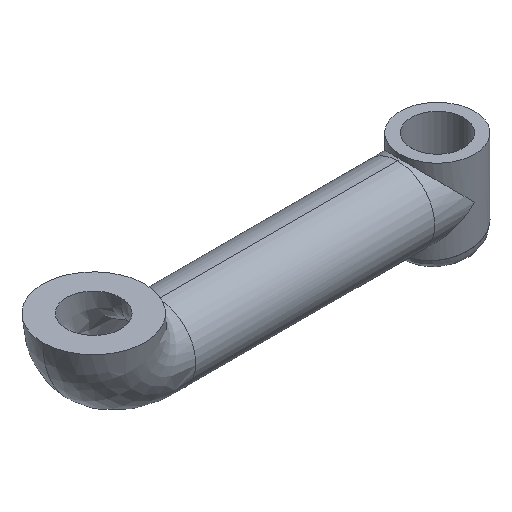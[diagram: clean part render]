
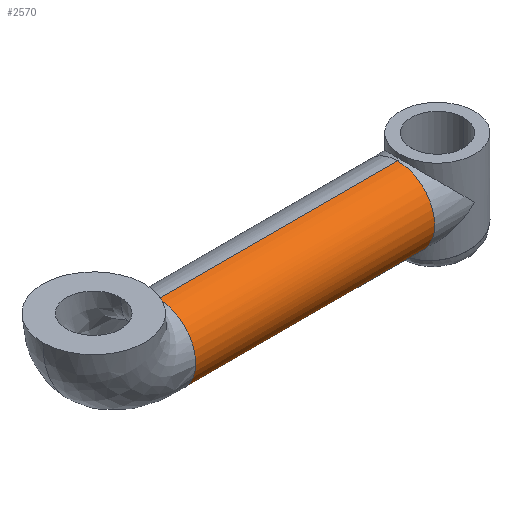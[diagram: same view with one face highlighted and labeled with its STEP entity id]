
A CAD part, isometric view. The second image highlights one B-rep face of the part: STEP entity #2570.
In plain terms, the highlighted cylindrical face has radius 42.5 mm (diameter 85 mm), a partial arc.
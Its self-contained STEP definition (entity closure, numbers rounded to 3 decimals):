
#2 = VECTOR ( 'NONE', #913, 1000. ) ;
#75 = CARTESIAN_POINT ( 'NONE',  ( 74., -2.782, -37.2 ) ) ;
#89 = CARTESIAN_POINT ( 'NONE',  ( 74., -25.925, -28.492 ) ) ;
#99 = CARTESIAN_POINT ( 'NONE',  ( 74., 0., 47.8 ) ) ;
#199 = EDGE_CURVE ( 'NONE', #1710, #1070, #1973, .T. ) ;
#245 = LINE ( 'NONE', #1258, #1742 ) ;
#280 = CARTESIAN_POINT ( 'NONE',  ( 347., 0., 47.8 ) ) ;
#296 = CARTESIAN_POINT ( 'NONE',  ( 74., -21.299, -31.583 ) ) ;
#311 = CARTESIAN_POINT ( 'NONE',  ( 74., -41.141, -5.72 ) ) ;
#416 = CARTESIAN_POINT ( 'NONE',  ( 347., 0., 5.3 ) ) ;
#479 = DIRECTION ( 'NONE',  ( -1., 0., 0. ) ) ;
#507 = CARTESIAN_POINT ( 'NONE',  ( 74., -32.019, 33.385 ) ) ;
#548 = CIRCLE ( 'NONE', #1439, 42.5 ) ;
#568 = CARTESIAN_POINT ( 'NONE',  ( 74., -28.085, -26.719 ) ) ;
#665 = EDGE_CURVE ( 'NONE', #723, #2361, #245, .T. ) ;
#680 = EDGE_CURVE ( 'NONE', #1710, #723, #548, .T. ) ;
#723 = VERTEX_POINT ( 'NONE', #1697 ) ;
#732 = CARTESIAN_POINT ( 'NONE',  ( 74., -5.563, -36.926 ) ) ;
#746 = B_SPLINE_CURVE_WITH_KNOTS ( 'NONE', 3,
 ( #831, #1675, #2543, #1776, #1168, #2676, #1413, #783, #2275, #507, #1154, #749, #1595, #2490, #1565, #2472, #985, #1384, #2662, #311, #2211, #2242, #2648, #2226, #1580, #568, #89, #296, #1210, #2458, #2003, #732, #75, #941 ),
 .UNSPECIFIED., .F., .F.,
 ( 4, 2, 2, 2, 2, 2, 2, 2, 2, 2, 2, 2, 2, 2, 2, 2, 4 ),
 ( 0., 0.031, 0.062, 0.094, 0.125, 0.156, 0.187, 0.219, 0.25, 0.281, 0.312, 0.344, 0.375, 0.406, 0.437, 0.469, 0.5 ),
 .UNSPECIFIED. ) ;
#749 = CARTESIAN_POINT ( 'NONE',  ( 74., -36.883, 26.599 ) ) ;
#771 = ORIENTED_EDGE ( 'NONE', *, *, #680, .F. ) ;
#783 = CARTESIAN_POINT ( 'NONE',  ( 74., -25.925, 39.092 ) ) ;
#807 = CARTESIAN_POINT ( 'NONE',  ( 74., 0., -37.2 ) ) ;
#831 = CARTESIAN_POINT ( 'NONE',  ( 74., 0., 47.8 ) ) ;
#913 = DIRECTION ( 'NONE',  ( -1., 0., 0. ) ) ;
#941 = CARTESIAN_POINT ( 'NONE',  ( 74., 0., -37.2 ) ) ;
#985 = CARTESIAN_POINT ( 'NONE',  ( 74., -42.5, 8.082 ) ) ;
#1070 = VERTEX_POINT ( 'NONE', #99 ) ;
#1154 = CARTESIAN_POINT ( 'NONE',  ( 74., -33.792, 31.225 ) ) ;
#1168 = CARTESIAN_POINT ( 'NONE',  ( 74., -13.694, 45.629 ) ) ;
#1210 = CARTESIAN_POINT ( 'NONE',  ( 74., -18.834, -32.9 ) ) ;
#1258 = CARTESIAN_POINT ( 'NONE',  ( 347., 0., -37.2 ) ) ;
#1285 = DIRECTION ( 'NONE',  ( 0., 0., 1. ) ) ;
#1328 = EDGE_CURVE ( 'NONE', #1070, #2361, #746, .T. ) ;
#1384 = CARTESIAN_POINT ( 'NONE',  ( 74., -42.5, 2.518 ) ) ;
#1413 = CARTESIAN_POINT ( 'NONE',  ( 74., -21.299, 42.183 ) ) ;
#1439 = AXIS2_PLACEMENT_3D ( 'NONE', #416, #2144, #1285 ) ;
#1486 = EDGE_LOOP ( 'NONE', ( #771, #2343, #1614, #2561 ) ) ;
#1565 = CARTESIAN_POINT ( 'NONE',  ( 74., -41.141, 16.32 ) ) ;
#1580 = CARTESIAN_POINT ( 'NONE',  ( 74., -32.019, -22.785 ) ) ;
#1595 = CARTESIAN_POINT ( 'NONE',  ( 74., -38.2, 24.134 ) ) ;
#1614 = ORIENTED_EDGE ( 'NONE', *, *, #1328, .T. ) ;
#1638 = AXIS2_PLACEMENT_3D ( 'NONE', #2404, #479, #2200 ) ;
#1675 = CARTESIAN_POINT ( 'NONE',  ( 74., -2.782, 47.8 ) ) ;
#1697 = CARTESIAN_POINT ( 'NONE',  ( 347., 0., -37.2 ) ) ;
#1710 = VERTEX_POINT ( 'NONE', #2524 ) ;
#1724 = DIRECTION ( 'NONE',  ( -1., 0., 0. ) ) ;
#1742 = VECTOR ( 'NONE', #1724, 1000. ) ;
#1776 = CARTESIAN_POINT ( 'NONE',  ( 74., -11.02, 46.441 ) ) ;
#1804 = FACE_OUTER_BOUND ( 'NONE', #1486, .T. ) ;
#1973 = LINE ( 'NONE', #280, #2 ) ;
#2003 = CARTESIAN_POINT ( 'NONE',  ( 74., -11.02, -35.841 ) ) ;
#2144 = DIRECTION ( 'NONE',  ( 1., 0., 0. ) ) ;
#2200 = DIRECTION ( 'NONE',  ( 0., 0., -1. ) ) ;
#2211 = CARTESIAN_POINT ( 'NONE',  ( 74., -40.329, -8.394 ) ) ;
#2226 = CARTESIAN_POINT ( 'NONE',  ( 74., -33.792, -20.625 ) ) ;
#2242 = CARTESIAN_POINT ( 'NONE',  ( 74., -38.2, -13.534 ) ) ;
#2275 = CARTESIAN_POINT ( 'NONE',  ( 74., -28.085, 37.319 ) ) ;
#2343 = ORIENTED_EDGE ( 'NONE', *, *, #199, .T. ) ;
#2361 = VERTEX_POINT ( 'NONE', #807 ) ;
#2404 = CARTESIAN_POINT ( 'NONE',  ( 347., 0., 5.3 ) ) ;
#2418 = CYLINDRICAL_SURFACE ( 'NONE', #1638, 42.5 ) ;
#2458 = CARTESIAN_POINT ( 'NONE',  ( 74., -13.694, -35.029 ) ) ;
#2472 = CARTESIAN_POINT ( 'NONE',  ( 74., -42.226, 10.863 ) ) ;
#2490 = CARTESIAN_POINT ( 'NONE',  ( 74., -40.329, 18.994 ) ) ;
#2524 = CARTESIAN_POINT ( 'NONE',  ( 347., 0., 47.8 ) ) ;
#2543 = CARTESIAN_POINT ( 'NONE',  ( 74., -5.563, 47.526 ) ) ;
#2561 = ORIENTED_EDGE ( 'NONE', *, *, #665, .F. ) ;
#2570 = ADVANCED_FACE ( 'NONE', ( #1804 ), #2418, .T. ) ;
#2648 = CARTESIAN_POINT ( 'NONE',  ( 74., -36.883, -15.999 ) ) ;
#2662 = CARTESIAN_POINT ( 'NONE',  ( 74., -42.226, -0.263 ) ) ;
#2676 = CARTESIAN_POINT ( 'NONE',  ( 74., -18.834, 43.5 ) ) ;
